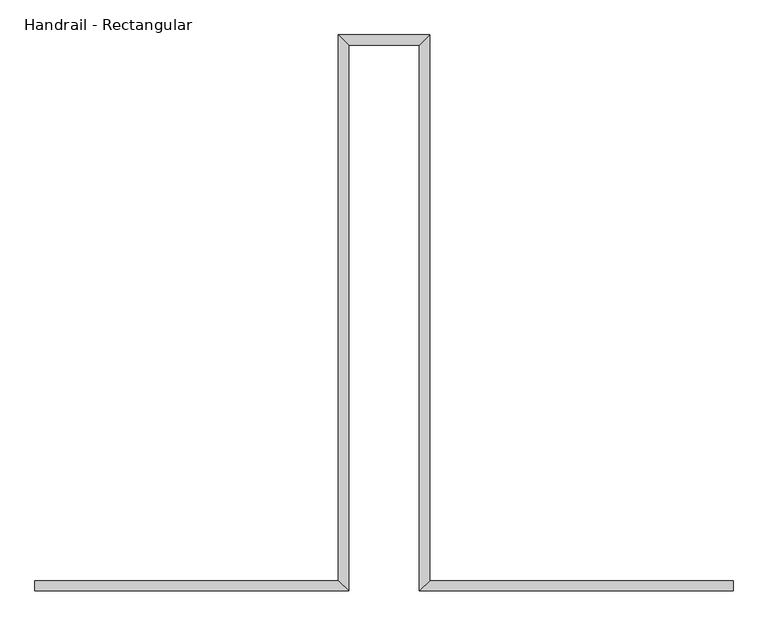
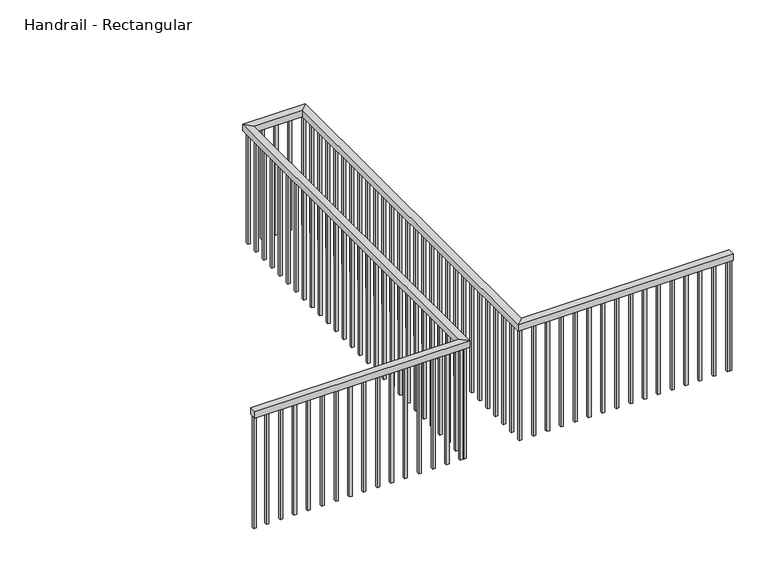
"""IFC4 building model written with IfcOpenShell, lengths in millimetres: railing geometry, Handrail - Rectangular."""

from ifc_helpers import new_model, si_unit, frame, origin, place, context, project, spatial, polyline, outline, extrude, faceted_brep, source, transform, mapped, element, save


def handrail_rectangular_05b30b02(model_context):
    return source(origin(), model_context, "Body", "SolidModel", [
        faceted_brep([(-7998.2149687, 6493.9758812, 10058.4), (-7998.2149687, 6544.7758812, 10058.4), (-7998.2149687, 6544.7758812, 10007.6), (-7998.2149687, 6493.9758812, 10007.6), (-6423.4149687, 6493.9758812, 10058.4), (-6474.2149687, 6544.7758812, 10058.4), (-6474.2149687, 6544.7758812, 10007.6), (-6423.4149687, 6493.9758812, 10007.6), (-6423.4149687, 9237.1758812, 10058.4), (-6474.2149687, 9287.9758812, 10058.4), (-6474.2149687, 9287.9758812, 10007.6), (-6423.4149687, 9237.1758812, 10007.6), (-6067.8149687, 9237.1758812, 10058.4), (-6017.0149687, 9287.9758812, 10058.4), (-6017.0149687, 9287.9758812, 10007.6), (-6067.8149687, 9237.1758812, 10007.6), (-6067.8149687, 6493.9758812, 10058.4), (-6017.0149687, 6544.7758812, 10058.4), (-6017.0149687, 6544.7758812, 10007.6), (-6067.8149687, 6493.9758812, 10007.6), (-4493.0149687, 6493.9758812, 10058.4), (-4493.0149687, 6493.9758812, 10007.6), (-4493.0149687, 6544.7758812, 10007.6), (-4493.0149687, 6544.7758812, 10058.4)], [[[0, 1, 2, 3]], [[1, 0, 4, 5]], [[2, 1, 5, 6]], [[3, 2, 6, 7]], [[0, 3, 7, 4]], [[5, 4, 8, 9]], [[6, 5, 9, 10]], [[7, 6, 10, 11]], [[4, 7, 11, 8]], [[9, 8, 12, 13]], [[10, 9, 13, 14]], [[11, 10, 14, 15]], [[8, 11, 15, 12]], [[13, 12, 16, 17]], [[14, 13, 17, 18]], [[15, 14, 18, 19]], [[12, 15, 19, 16]], [[20, 21, 22, 23]], [[17, 16, 20, 23]], [[18, 17, 23, 22]], [[19, 18, 22, 21]], [[16, 19, 21, 20]]]),
        extrude(outline(polyline([(-4527.9399687, 6509.8508812), (-4527.9399687, 6528.9008812), (-4508.8899687, 6528.9008812), (-4508.8899687, 6509.8508812), (-4527.9399687, 6509.8508812)])), frame((0.0, 0.0, 9144.0), z_axis=(0.0, 0.0, 1.0), x_axis=(1.0, 0.0, 0.0)), (0.0, 0.0, 1.0), 863.6),
        extrude(outline(polyline([(-4629.5399687, 6509.8508812), (-4629.5399687, 6528.9008812), (-4610.4899687, 6528.9008812), (-4610.4899687, 6509.8508812), (-4629.5399687, 6509.8508812)])), frame((0.0, 0.0, 9144.0), z_axis=(0.0, 0.0, 1.0), x_axis=(1.0, 0.0, 0.0)), (0.0, 0.0, 1.0), 863.6),
        extrude(outline(polyline([(-4731.1399687, 6509.8508812), (-4731.1399687, 6528.9008812), (-4712.0899687, 6528.9008812), (-4712.0899687, 6509.8508812), (-4731.1399687, 6509.8508812)])), frame((0.0, 0.0, 9144.0), z_axis=(0.0, 0.0, 1.0), x_axis=(1.0, 0.0, 0.0)), (0.0, 0.0, 1.0), 863.6),
        extrude(outline(polyline([(-4832.7399687, 6509.8508812), (-4832.7399687, 6528.9008812), (-4813.6899687, 6528.9008812), (-4813.6899687, 6509.8508812), (-4832.7399687, 6509.8508812)])), frame((0.0, 0.0, 9144.0), z_axis=(0.0, 0.0, 1.0), x_axis=(1.0, 0.0, 0.0)), (0.0, 0.0, 1.0), 863.6),
        extrude(outline(polyline([(-4934.3399687, 6509.8508812), (-4934.3399687, 6528.9008812), (-4915.2899687, 6528.9008812), (-4915.2899687, 6509.8508812), (-4934.3399687, 6509.8508812)])), frame((0.0, 0.0, 9144.0), z_axis=(0.0, 0.0, 1.0), x_axis=(1.0, 0.0, 0.0)), (0.0, 0.0, 1.0), 863.6),
        extrude(outline(polyline([(-5035.9399687, 6509.8508812), (-5035.9399687, 6528.9008812), (-5016.8899687, 6528.9008812), (-5016.8899687, 6509.8508812), (-5035.9399687, 6509.8508812)])), frame((0.0, 0.0, 9144.0), z_axis=(0.0, 0.0, 1.0), x_axis=(1.0, 0.0, 0.0)), (0.0, 0.0, 1.0), 863.6),
        extrude(outline(polyline([(-5137.5399687, 6509.8508812), (-5137.5399687, 6528.9008812), (-5118.4899687, 6528.9008812), (-5118.4899687, 6509.8508812), (-5137.5399687, 6509.8508812)])), frame((0.0, 0.0, 9144.0), z_axis=(0.0, 0.0, 1.0), x_axis=(1.0, 0.0, 0.0)), (0.0, 0.0, 1.0), 863.6),
        extrude(outline(polyline([(-5239.1399687, 6509.8508812), (-5239.1399687, 6528.9008812), (-5220.0899687, 6528.9008812), (-5220.0899687, 6509.8508812), (-5239.1399687, 6509.8508812)])), frame((0.0, 0.0, 9144.0), z_axis=(0.0, 0.0, 1.0), x_axis=(1.0, 0.0, 0.0)), (0.0, 0.0, 1.0), 863.6),
        extrude(outline(polyline([(-5340.7399687, 6509.8508812), (-5340.7399687, 6528.9008812), (-5321.6899687, 6528.9008812), (-5321.6899687, 6509.8508812), (-5340.7399687, 6509.8508812)])), frame((0.0, 0.0, 9144.0), z_axis=(0.0, 0.0, 1.0), x_axis=(1.0, 0.0, 0.0)), (0.0, 0.0, 1.0), 863.6),
        extrude(outline(polyline([(-5442.3399687, 6509.8508812), (-5442.3399687, 6528.9008812), (-5423.2899687, 6528.9008812), (-5423.2899687, 6509.8508812), (-5442.3399687, 6509.8508812)])), frame((0.0, 0.0, 9144.0), z_axis=(0.0, 0.0, 1.0), x_axis=(1.0, 0.0, 0.0)), (0.0, 0.0, 1.0), 863.6),
        extrude(outline(polyline([(-5543.9399687, 6509.8508812), (-5543.9399687, 6528.9008812), (-5524.8899687, 6528.9008812), (-5524.8899687, 6509.8508812), (-5543.9399687, 6509.8508812)])), frame((0.0, 0.0, 9144.0), z_axis=(0.0, 0.0, 1.0), x_axis=(1.0, 0.0, 0.0)), (0.0, 0.0, 1.0), 863.6),
        extrude(outline(polyline([(-5645.5399687, 6509.8508812), (-5645.5399687, 6528.9008812), (-5626.4899687, 6528.9008812), (-5626.4899687, 6509.8508812), (-5645.5399687, 6509.8508812)])), frame((0.0, 0.0, 9144.0), z_axis=(0.0, 0.0, 1.0), x_axis=(1.0, 0.0, 0.0)), (0.0, 0.0, 1.0), 863.6),
        extrude(outline(polyline([(-5747.1399687, 6509.8508812), (-5747.1399687, 6528.9008812), (-5728.0899687, 6528.9008812), (-5728.0899687, 6509.8508812), (-5747.1399687, 6509.8508812)])), frame((0.0, 0.0, 9144.0), z_axis=(0.0, 0.0, 1.0), x_axis=(1.0, 0.0, 0.0)), (0.0, 0.0, 1.0), 863.6),
        extrude(outline(polyline([(-5848.7399687, 6509.8508812), (-5848.7399687, 6528.9008812), (-5829.6899687, 6528.9008812), (-5829.6899687, 6509.8508812), (-5848.7399687, 6509.8508812)])), frame((0.0, 0.0, 9144.0), z_axis=(0.0, 0.0, 1.0), x_axis=(1.0, 0.0, 0.0)), (0.0, 0.0, 1.0), 863.6),
        extrude(outline(polyline([(-5950.3399687, 6509.8508812), (-5950.3399687, 6528.9008812), (-5931.2899687, 6528.9008812), (-5931.2899687, 6509.8508812), (-5950.3399687, 6509.8508812)])), frame((0.0, 0.0, 9144.0), z_axis=(0.0, 0.0, 1.0), x_axis=(1.0, 0.0, 0.0)), (0.0, 0.0, 1.0), 863.6),
        extrude(outline(polyline([(-6051.9399687, 6630.5008812), (-6032.8899687, 6630.5008812), (-6032.8899687, 6611.4508812), (-6051.9399687, 6611.4508812), (-6051.9399687, 6630.5008812)])), frame((0.0, 0.0, 9144.0), z_axis=(0.0, 0.0, 1.0), x_axis=(1.0, 0.0, 0.0)), (0.0, 0.0, 1.0), 863.6),
        extrude(outline(polyline([(-6051.9399687, 6732.1008812), (-6032.8899687, 6732.1008812), (-6032.8899687, 6713.0508812), (-6051.9399687, 6713.0508812), (-6051.9399687, 6732.1008812)])), frame((0.0, 0.0, 9144.0), z_axis=(0.0, 0.0, 1.0), x_axis=(1.0, 0.0, 0.0)), (0.0, 0.0, 1.0), 863.6),
        extrude(outline(polyline([(-6051.9399687, 6833.7008812), (-6032.8899687, 6833.7008812), (-6032.8899687, 6814.6508812), (-6051.9399687, 6814.6508812), (-6051.9399687, 6833.7008812)])), frame((0.0, 0.0, 9144.0), z_axis=(0.0, 0.0, 1.0), x_axis=(1.0, 0.0, 0.0)), (0.0, 0.0, 1.0), 863.6),
        extrude(outline(polyline([(-6051.9399687, 6935.3008812), (-6032.8899687, 6935.3008812), (-6032.8899687, 6916.2508812), (-6051.9399687, 6916.2508812), (-6051.9399687, 6935.3008812)])), frame((0.0, 0.0, 9144.0), z_axis=(0.0, 0.0, 1.0), x_axis=(1.0, 0.0, 0.0)), (0.0, 0.0, 1.0), 863.6),
        extrude(outline(polyline([(-6051.9399687, 7036.9008812), (-6032.8899687, 7036.9008812), (-6032.8899687, 7017.8508812), (-6051.9399687, 7017.8508812), (-6051.9399687, 7036.9008812)])), frame((0.0, 0.0, 9144.0), z_axis=(0.0, 0.0, 1.0), x_axis=(1.0, 0.0, 0.0)), (0.0, 0.0, 1.0), 863.6),
        extrude(outline(polyline([(-6051.9399687, 7138.5008812), (-6032.8899687, 7138.5008812), (-6032.8899687, 7119.4508812), (-6051.9399687, 7119.4508812), (-6051.9399687, 7138.5008812)])), frame((0.0, 0.0, 9144.0), z_axis=(0.0, 0.0, 1.0), x_axis=(1.0, 0.0, 0.0)), (0.0, 0.0, 1.0), 863.6),
        extrude(outline(polyline([(-6051.9399687, 7240.1008812), (-6032.8899687, 7240.1008812), (-6032.8899687, 7221.0508812), (-6051.9399687, 7221.0508812), (-6051.9399687, 7240.1008812)])), frame((0.0, 0.0, 9144.0), z_axis=(0.0, 0.0, 1.0), x_axis=(1.0, 0.0, 0.0)), (0.0, 0.0, 1.0), 863.6),
        extrude(outline(polyline([(-6051.9399687, 7341.7008812), (-6032.8899687, 7341.7008812), (-6032.8899687, 7322.6508812), (-6051.9399687, 7322.6508812), (-6051.9399687, 7341.7008812)])), frame((0.0, 0.0, 9144.0), z_axis=(0.0, 0.0, 1.0), x_axis=(1.0, 0.0, 0.0)), (0.0, 0.0, 1.0), 863.6),
        extrude(outline(polyline([(-6051.9399687, 7443.3008812), (-6032.8899687, 7443.3008812), (-6032.8899687, 7424.2508812), (-6051.9399687, 7424.2508812), (-6051.9399687, 7443.3008812)])), frame((0.0, 0.0, 9144.0), z_axis=(0.0, 0.0, 1.0), x_axis=(1.0, 0.0, 0.0)), (0.0, 0.0, 1.0), 863.6),
        extrude(outline(polyline([(-6051.9399687, 7544.9008812), (-6032.8899687, 7544.9008812), (-6032.8899687, 7525.8508812), (-6051.9399687, 7525.8508812), (-6051.9399687, 7544.9008812)])), frame((0.0, 0.0, 9144.0), z_axis=(0.0, 0.0, 1.0), x_axis=(1.0, 0.0, 0.0)), (0.0, 0.0, 1.0), 863.6),
        extrude(outline(polyline([(-6051.9399687, 7646.5008812), (-6032.8899687, 7646.5008812), (-6032.8899687, 7627.4508812), (-6051.9399687, 7627.4508812), (-6051.9399687, 7646.5008812)])), frame((0.0, 0.0, 9144.0), z_axis=(0.0, 0.0, 1.0), x_axis=(1.0, 0.0, 0.0)), (0.0, 0.0, 1.0), 863.6),
        extrude(outline(polyline([(-6051.9399687, 7748.1008812), (-6032.8899687, 7748.1008812), (-6032.8899687, 7729.0508812), (-6051.9399687, 7729.0508812), (-6051.9399687, 7748.1008812)])), frame((0.0, 0.0, 9144.0), z_axis=(0.0, 0.0, 1.0), x_axis=(1.0, 0.0, 0.0)), (0.0, 0.0, 1.0), 863.6),
        extrude(outline(polyline([(-6051.9399687, 7849.7008812), (-6032.8899687, 7849.7008812), (-6032.8899687, 7830.6508812), (-6051.9399687, 7830.6508812), (-6051.9399687, 7849.7008812)])), frame((0.0, 0.0, 9144.0), z_axis=(0.0, 0.0, 1.0), x_axis=(1.0, 0.0, 0.0)), (0.0, 0.0, 1.0), 863.6),
        extrude(outline(polyline([(-6051.9399687, 7951.3008812), (-6032.8899687, 7951.3008812), (-6032.8899687, 7932.2508812), (-6051.9399687, 7932.2508812), (-6051.9399687, 7951.3008812)])), frame((0.0, 0.0, 9144.0), z_axis=(0.0, 0.0, 1.0), x_axis=(1.0, 0.0, 0.0)), (0.0, 0.0, 1.0), 863.6),
        extrude(outline(polyline([(-6051.9399687, 8052.9008812), (-6032.8899687, 8052.9008812), (-6032.8899687, 8033.8508812), (-6051.9399687, 8033.8508812), (-6051.9399687, 8052.9008812)])), frame((0.0, 0.0, 9144.0), z_axis=(0.0, 0.0, 1.0), x_axis=(1.0, 0.0, 0.0)), (0.0, 0.0, 1.0), 863.6),
        extrude(outline(polyline([(-6051.9399687, 8154.5008812), (-6032.8899687, 8154.5008812), (-6032.8899687, 8135.4508812), (-6051.9399687, 8135.4508812), (-6051.9399687, 8154.5008812)])), frame((0.0, 0.0, 9144.0), z_axis=(0.0, 0.0, 1.0), x_axis=(1.0, 0.0, 0.0)), (0.0, 0.0, 1.0), 863.6),
        extrude(outline(polyline([(-6051.9399687, 8256.1008812), (-6032.8899687, 8256.1008812), (-6032.8899687, 8237.0508812), (-6051.9399687, 8237.0508812), (-6051.9399687, 8256.1008812)])), frame((0.0, 0.0, 9144.0), z_axis=(0.0, 0.0, 1.0), x_axis=(1.0, 0.0, 0.0)), (0.0, 0.0, 1.0), 863.6),
        extrude(outline(polyline([(-6051.9399687, 8357.7008812), (-6032.8899687, 8357.7008812), (-6032.8899687, 8338.6508812), (-6051.9399687, 8338.6508812), (-6051.9399687, 8357.7008812)])), frame((0.0, 0.0, 9144.0), z_axis=(0.0, 0.0, 1.0), x_axis=(1.0, 0.0, 0.0)), (0.0, 0.0, 1.0), 863.6),
        extrude(outline(polyline([(-6051.9399687, 8459.3008812), (-6032.8899687, 8459.3008812), (-6032.8899687, 8440.2508812), (-6051.9399687, 8440.2508812), (-6051.9399687, 8459.3008812)])), frame((0.0, 0.0, 9144.0), z_axis=(0.0, 0.0, 1.0), x_axis=(1.0, 0.0, 0.0)), (0.0, 0.0, 1.0), 863.6),
        extrude(outline(polyline([(-6051.9399687, 8560.9008812), (-6032.8899687, 8560.9008812), (-6032.8899687, 8541.8508812), (-6051.9399687, 8541.8508812), (-6051.9399687, 8560.9008812)])), frame((0.0, 0.0, 9144.0), z_axis=(0.0, 0.0, 1.0), x_axis=(1.0, 0.0, 0.0)), (0.0, 0.0, 1.0), 863.6),
        extrude(outline(polyline([(-6051.9399687, 8662.5008812), (-6032.8899687, 8662.5008812), (-6032.8899687, 8643.4508812), (-6051.9399687, 8643.4508812), (-6051.9399687, 8662.5008812)])), frame((0.0, 0.0, 9144.0), z_axis=(0.0, 0.0, 1.0), x_axis=(1.0, 0.0, 0.0)), (0.0, 0.0, 1.0), 863.6),
        extrude(outline(polyline([(-6051.9399687, 8764.1008812), (-6032.8899687, 8764.1008812), (-6032.8899687, 8745.0508812), (-6051.9399687, 8745.0508812), (-6051.9399687, 8764.1008812)])), frame((0.0, 0.0, 9144.0), z_axis=(0.0, 0.0, 1.0), x_axis=(1.0, 0.0, 0.0)), (0.0, 0.0, 1.0), 863.6),
        extrude(outline(polyline([(-6051.9399687, 8865.7008812), (-6032.8899687, 8865.7008812), (-6032.8899687, 8846.6508812), (-6051.9399687, 8846.6508812), (-6051.9399687, 8865.7008812)])), frame((0.0, 0.0, 9144.0), z_axis=(0.0, 0.0, 1.0), x_axis=(1.0, 0.0, 0.0)), (0.0, 0.0, 1.0), 863.6),
        extrude(outline(polyline([(-6051.9399687, 8967.3008812), (-6032.8899687, 8967.3008812), (-6032.8899687, 8948.2508812), (-6051.9399687, 8948.2508812), (-6051.9399687, 8967.3008812)])), frame((0.0, 0.0, 9144.0), z_axis=(0.0, 0.0, 1.0), x_axis=(1.0, 0.0, 0.0)), (0.0, 0.0, 1.0), 863.6),
        extrude(outline(polyline([(-6051.9399687, 9068.9008812), (-6032.8899687, 9068.9008812), (-6032.8899687, 9049.8508812), (-6051.9399687, 9049.8508812), (-6051.9399687, 9068.9008812)])), frame((0.0, 0.0, 9144.0), z_axis=(0.0, 0.0, 1.0), x_axis=(1.0, 0.0, 0.0)), (0.0, 0.0, 1.0), 863.6),
        extrude(outline(polyline([(-6051.9399687, 9170.5008812), (-6032.8899687, 9170.5008812), (-6032.8899687, 9151.4508812), (-6051.9399687, 9151.4508812), (-6051.9399687, 9170.5008812)])), frame((0.0, 0.0, 9144.0), z_axis=(0.0, 0.0, 1.0), x_axis=(1.0, 0.0, 0.0)), (0.0, 0.0, 1.0), 863.6),
        extrude(outline(polyline([(-6153.5399687, 9253.0508812), (-6153.5399687, 9272.1008812), (-6134.4899687, 9272.1008812), (-6134.4899687, 9253.0508812), (-6153.5399687, 9253.0508812)])), frame((0.0, 0.0, 9144.0), z_axis=(0.0, 0.0, 1.0), x_axis=(1.0, 0.0, 0.0)), (0.0, 0.0, 1.0), 863.6),
        extrude(outline(polyline([(-6255.1399687, 9253.0508812), (-6255.1399687, 9272.1008812), (-6236.0899687, 9272.1008812), (-6236.0899687, 9253.0508812), (-6255.1399687, 9253.0508812)])), frame((0.0, 0.0, 9144.0), z_axis=(0.0, 0.0, 1.0), x_axis=(1.0, 0.0, 0.0)), (0.0, 0.0, 1.0), 863.6),
        extrude(outline(polyline([(-6356.7399687, 9253.0508812), (-6356.7399687, 9272.1008812), (-6337.6899687, 9272.1008812), (-6337.6899687, 9253.0508812), (-6356.7399687, 9253.0508812)])), frame((0.0, 0.0, 9144.0), z_axis=(0.0, 0.0, 1.0), x_axis=(1.0, 0.0, 0.0)), (0.0, 0.0, 1.0), 863.6),
        extrude(outline(polyline([(-6439.2899687, 9151.4508812), (-6458.3399687, 9151.4508812), (-6458.3399687, 9170.5008812), (-6439.2899687, 9170.5008812), (-6439.2899687, 9151.4508812)])), frame((0.0, 0.0, 9144.0), z_axis=(0.0, 0.0, 1.0), x_axis=(1.0, 0.0, 0.0)), (0.0, 0.0, 1.0), 863.6),
        extrude(outline(polyline([(-6439.2899687, 9049.8508812), (-6458.3399687, 9049.8508812), (-6458.3399687, 9068.9008812), (-6439.2899687, 9068.9008812), (-6439.2899687, 9049.8508812)])), frame((0.0, 0.0, 9144.0), z_axis=(0.0, 0.0, 1.0), x_axis=(1.0, 0.0, 0.0)), (0.0, 0.0, 1.0), 863.6),
        extrude(outline(polyline([(-6439.2899687, 8948.2508812), (-6458.3399687, 8948.2508812), (-6458.3399687, 8967.3008812), (-6439.2899687, 8967.3008812), (-6439.2899687, 8948.2508812)])), frame((0.0, 0.0, 9144.0), z_axis=(0.0, 0.0, 1.0), x_axis=(1.0, 0.0, 0.0)), (0.0, 0.0, 1.0), 863.6),
        extrude(outline(polyline([(-6439.2899687, 8846.6508812), (-6458.3399687, 8846.6508812), (-6458.3399687, 8865.7008812), (-6439.2899687, 8865.7008812), (-6439.2899687, 8846.6508812)])), frame((0.0, 0.0, 9144.0), z_axis=(0.0, 0.0, 1.0), x_axis=(1.0, 0.0, 0.0)), (0.0, 0.0, 1.0), 863.6),
        extrude(outline(polyline([(-6439.2899687, 8745.0508812), (-6458.3399687, 8745.0508812), (-6458.3399687, 8764.1008812), (-6439.2899687, 8764.1008812), (-6439.2899687, 8745.0508812)])), frame((0.0, 0.0, 9144.0), z_axis=(0.0, 0.0, 1.0), x_axis=(1.0, 0.0, 0.0)), (0.0, 0.0, 1.0), 863.6),
        extrude(outline(polyline([(-6439.2899687, 8643.4508812), (-6458.3399687, 8643.4508812), (-6458.3399687, 8662.5008812), (-6439.2899687, 8662.5008812), (-6439.2899687, 8643.4508812)])), frame((0.0, 0.0, 9144.0), z_axis=(0.0, 0.0, 1.0), x_axis=(1.0, 0.0, 0.0)), (0.0, 0.0, 1.0), 863.6),
        extrude(outline(polyline([(-6439.2899687, 8541.8508812), (-6458.3399687, 8541.8508812), (-6458.3399687, 8560.9008812), (-6439.2899687, 8560.9008812), (-6439.2899687, 8541.8508812)])), frame((0.0, 0.0, 9144.0), z_axis=(0.0, 0.0, 1.0), x_axis=(1.0, 0.0, 0.0)), (0.0, 0.0, 1.0), 863.6),
        extrude(outline(polyline([(-6439.2899687, 8440.2508812), (-6458.3399687, 8440.2508812), (-6458.3399687, 8459.3008812), (-6439.2899687, 8459.3008812), (-6439.2899687, 8440.2508812)])), frame((0.0, 0.0, 9144.0), z_axis=(0.0, 0.0, 1.0), x_axis=(1.0, 0.0, 0.0)), (0.0, 0.0, 1.0), 863.6),
        extrude(outline(polyline([(-6439.2899687, 8338.6508812), (-6458.3399687, 8338.6508812), (-6458.3399687, 8357.7008812), (-6439.2899687, 8357.7008812), (-6439.2899687, 8338.6508812)])), frame((0.0, 0.0, 9144.0), z_axis=(0.0, 0.0, 1.0), x_axis=(1.0, 0.0, 0.0)), (0.0, 0.0, 1.0), 863.6),
        extrude(outline(polyline([(-6439.2899687, 8237.0508812), (-6458.3399687, 8237.0508812), (-6458.3399687, 8256.1008812), (-6439.2899687, 8256.1008812), (-6439.2899687, 8237.0508812)])), frame((0.0, 0.0, 9144.0), z_axis=(0.0, 0.0, 1.0), x_axis=(1.0, 0.0, 0.0)), (0.0, 0.0, 1.0), 863.6),
        extrude(outline(polyline([(-6439.2899687, 8135.4508812), (-6458.3399687, 8135.4508812), (-6458.3399687, 8154.5008812), (-6439.2899687, 8154.5008812), (-6439.2899687, 8135.4508812)])), frame((0.0, 0.0, 9144.0), z_axis=(0.0, 0.0, 1.0), x_axis=(1.0, 0.0, 0.0)), (0.0, 0.0, 1.0), 863.6),
        extrude(outline(polyline([(-6439.2899687, 8033.8508812), (-6458.3399687, 8033.8508812), (-6458.3399687, 8052.9008812), (-6439.2899687, 8052.9008812), (-6439.2899687, 8033.8508812)])), frame((0.0, 0.0, 9144.0), z_axis=(0.0, 0.0, 1.0), x_axis=(1.0, 0.0, 0.0)), (0.0, 0.0, 1.0), 863.6),
        extrude(outline(polyline([(-6439.2899687, 7932.2508812), (-6458.3399687, 7932.2508812), (-6458.3399687, 7951.3008812), (-6439.2899687, 7951.3008812), (-6439.2899687, 7932.2508812)])), frame((0.0, 0.0, 9144.0), z_axis=(0.0, 0.0, 1.0), x_axis=(1.0, 0.0, 0.0)), (0.0, 0.0, 1.0), 863.6),
        extrude(outline(polyline([(-6439.2899687, 7830.6508812), (-6458.3399687, 7830.6508812), (-6458.3399687, 7849.7008812), (-6439.2899687, 7849.7008812), (-6439.2899687, 7830.6508812)])), frame((0.0, 0.0, 9144.0), z_axis=(0.0, 0.0, 1.0), x_axis=(1.0, 0.0, 0.0)), (0.0, 0.0, 1.0), 863.6),
        extrude(outline(polyline([(-6439.2899687, 7729.0508812), (-6458.3399687, 7729.0508812), (-6458.3399687, 7748.1008812), (-6439.2899687, 7748.1008812), (-6439.2899687, 7729.0508812)])), frame((0.0, 0.0, 9144.0), z_axis=(0.0, 0.0, 1.0), x_axis=(1.0, 0.0, 0.0)), (0.0, 0.0, 1.0), 863.6),
        extrude(outline(polyline([(-6439.2899687, 7627.4508812), (-6458.3399687, 7627.4508812), (-6458.3399687, 7646.5008812), (-6439.2899687, 7646.5008812), (-6439.2899687, 7627.4508812)])), frame((0.0, 0.0, 9144.0), z_axis=(0.0, 0.0, 1.0), x_axis=(1.0, 0.0, 0.0)), (0.0, 0.0, 1.0), 863.6),
        extrude(outline(polyline([(-6439.2899687, 7525.8508812), (-6458.3399687, 7525.8508812), (-6458.3399687, 7544.9008812), (-6439.2899687, 7544.9008812), (-6439.2899687, 7525.8508812)])), frame((0.0, 0.0, 9144.0), z_axis=(0.0, 0.0, 1.0), x_axis=(1.0, 0.0, 0.0)), (0.0, 0.0, 1.0), 863.6),
        extrude(outline(polyline([(-6439.2899687, 7424.2508812), (-6458.3399687, 7424.2508812), (-6458.3399687, 7443.3008812), (-6439.2899687, 7443.3008812), (-6439.2899687, 7424.2508812)])), frame((0.0, 0.0, 9144.0), z_axis=(0.0, 0.0, 1.0), x_axis=(1.0, 0.0, 0.0)), (0.0, 0.0, 1.0), 863.6),
        extrude(outline(polyline([(-6439.2899687, 7322.6508812), (-6458.3399687, 7322.6508812), (-6458.3399687, 7341.7008812), (-6439.2899687, 7341.7008812), (-6439.2899687, 7322.6508812)])), frame((0.0, 0.0, 9144.0), z_axis=(0.0, 0.0, 1.0), x_axis=(1.0, 0.0, 0.0)), (0.0, 0.0, 1.0), 863.6),
        extrude(outline(polyline([(-6439.2899687, 7221.0508812), (-6458.3399687, 7221.0508812), (-6458.3399687, 7240.1008812), (-6439.2899687, 7240.1008812), (-6439.2899687, 7221.0508812)])), frame((0.0, 0.0, 9144.0), z_axis=(0.0, 0.0, 1.0), x_axis=(1.0, 0.0, 0.0)), (0.0, 0.0, 1.0), 863.6),
        extrude(outline(polyline([(-6439.2899687, 7119.4508812), (-6458.3399687, 7119.4508812), (-6458.3399687, 7138.5008812), (-6439.2899687, 7138.5008812), (-6439.2899687, 7119.4508812)])), frame((0.0, 0.0, 9144.0), z_axis=(0.0, 0.0, 1.0), x_axis=(1.0, 0.0, 0.0)), (0.0, 0.0, 1.0), 863.6),
        extrude(outline(polyline([(-6439.2899687, 7017.8508812), (-6458.3399687, 7017.8508812), (-6458.3399687, 7036.9008812), (-6439.2899687, 7036.9008812), (-6439.2899687, 7017.8508812)])), frame((0.0, 0.0, 9144.0), z_axis=(0.0, 0.0, 1.0), x_axis=(1.0, 0.0, 0.0)), (0.0, 0.0, 1.0), 863.6),
        extrude(outline(polyline([(-6439.2899687, 6916.2508812), (-6458.3399687, 6916.2508812), (-6458.3399687, 6935.3008812), (-6439.2899687, 6935.3008812), (-6439.2899687, 6916.2508812)])), frame((0.0, 0.0, 9144.0), z_axis=(0.0, 0.0, 1.0), x_axis=(1.0, 0.0, 0.0)), (0.0, 0.0, 1.0), 863.6),
        extrude(outline(polyline([(-6439.2899687, 6814.6508812), (-6458.3399687, 6814.6508812), (-6458.3399687, 6833.7008812), (-6439.2899687, 6833.7008812), (-6439.2899687, 6814.6508812)])), frame((0.0, 0.0, 9144.0), z_axis=(0.0, 0.0, 1.0), x_axis=(1.0, 0.0, 0.0)), (0.0, 0.0, 1.0), 863.6),
        extrude(outline(polyline([(-6439.2899687, 6713.0508812), (-6458.3399687, 6713.0508812), (-6458.3399687, 6732.1008812), (-6439.2899687, 6732.1008812), (-6439.2899687, 6713.0508812)])), frame((0.0, 0.0, 9144.0), z_axis=(0.0, 0.0, 1.0), x_axis=(1.0, 0.0, 0.0)), (0.0, 0.0, 1.0), 863.6),
        extrude(outline(polyline([(-6439.2899687, 6611.4508812), (-6458.3399687, 6611.4508812), (-6458.3399687, 6630.5008812), (-6439.2899687, 6630.5008812), (-6439.2899687, 6611.4508812)])), frame((0.0, 0.0, 9144.0), z_axis=(0.0, 0.0, 1.0), x_axis=(1.0, 0.0, 0.0)), (0.0, 0.0, 1.0), 863.6),
        extrude(outline(polyline([(-6483.7399687, 6509.8508812), (-6483.7399687, 6528.9008812), (-6464.6899687, 6528.9008812), (-6464.6899687, 6509.8508812), (-6483.7399687, 6509.8508812)])), frame((0.0, 0.0, 9144.0), z_axis=(0.0, 0.0, 1.0), x_axis=(1.0, 0.0, 0.0)), (0.0, 0.0, 1.0), 863.6),
        extrude(outline(polyline([(-6585.3399687, 6509.8508812), (-6585.3399687, 6528.9008812), (-6566.2899687, 6528.9008812), (-6566.2899687, 6509.8508812), (-6585.3399687, 6509.8508812)])), frame((0.0, 0.0, 9144.0), z_axis=(0.0, 0.0, 1.0), x_axis=(1.0, 0.0, 0.0)), (0.0, 0.0, 1.0), 863.6),
        extrude(outline(polyline([(-6686.9399687, 6509.8508812), (-6686.9399687, 6528.9008812), (-6667.8899687, 6528.9008812), (-6667.8899687, 6509.8508812), (-6686.9399687, 6509.8508812)])), frame((0.0, 0.0, 9144.0), z_axis=(0.0, 0.0, 1.0), x_axis=(1.0, 0.0, 0.0)), (0.0, 0.0, 1.0), 863.6),
        extrude(outline(polyline([(-6788.5399687, 6509.8508812), (-6788.5399687, 6528.9008812), (-6769.4899687, 6528.9008812), (-6769.4899687, 6509.8508812), (-6788.5399687, 6509.8508812)])), frame((0.0, 0.0, 9144.0), z_axis=(0.0, 0.0, 1.0), x_axis=(1.0, 0.0, 0.0)), (0.0, 0.0, 1.0), 863.6),
        extrude(outline(polyline([(-6890.1399687, 6509.8508812), (-6890.1399687, 6528.9008812), (-6871.0899687, 6528.9008812), (-6871.0899687, 6509.8508812), (-6890.1399687, 6509.8508812)])), frame((0.0, 0.0, 9144.0), z_axis=(0.0, 0.0, 1.0), x_axis=(1.0, 0.0, 0.0)), (0.0, 0.0, 1.0), 863.6),
        extrude(outline(polyline([(-6991.7399687, 6509.8508812), (-6991.7399687, 6528.9008812), (-6972.6899687, 6528.9008812), (-6972.6899687, 6509.8508812), (-6991.7399687, 6509.8508812)])), frame((0.0, 0.0, 9144.0), z_axis=(0.0, 0.0, 1.0), x_axis=(1.0, 0.0, 0.0)), (0.0, 0.0, 1.0), 863.6),
        extrude(outline(polyline([(-7093.3399687, 6509.8508812), (-7093.3399687, 6528.9008812), (-7074.2899687, 6528.9008812), (-7074.2899687, 6509.8508812), (-7093.3399687, 6509.8508812)])), frame((0.0, 0.0, 9144.0), z_axis=(0.0, 0.0, 1.0), x_axis=(1.0, 0.0, 0.0)), (0.0, 0.0, 1.0), 863.6),
        extrude(outline(polyline([(-7194.9399687, 6509.8508812), (-7194.9399687, 6528.9008812), (-7175.8899687, 6528.9008812), (-7175.8899687, 6509.8508812), (-7194.9399687, 6509.8508812)])), frame((0.0, 0.0, 9144.0), z_axis=(0.0, 0.0, 1.0), x_axis=(1.0, 0.0, 0.0)), (0.0, 0.0, 1.0), 863.6),
        extrude(outline(polyline([(-7296.5399687, 6509.8508812), (-7296.5399687, 6528.9008812), (-7277.4899687, 6528.9008812), (-7277.4899687, 6509.8508812), (-7296.5399687, 6509.8508812)])), frame((0.0, 0.0, 9144.0), z_axis=(0.0, 0.0, 1.0), x_axis=(1.0, 0.0, 0.0)), (0.0, 0.0, 1.0), 863.6),
        extrude(outline(polyline([(-7398.1399687, 6509.8508812), (-7398.1399687, 6528.9008812), (-7379.0899687, 6528.9008812), (-7379.0899687, 6509.8508812), (-7398.1399687, 6509.8508812)])), frame((0.0, 0.0, 9144.0), z_axis=(0.0, 0.0, 1.0), x_axis=(1.0, 0.0, 0.0)), (0.0, 0.0, 1.0), 863.6),
        extrude(outline(polyline([(-7499.7399687, 6509.8508812), (-7499.7399687, 6528.9008812), (-7480.6899687, 6528.9008812), (-7480.6899687, 6509.8508812), (-7499.7399687, 6509.8508812)])), frame((0.0, 0.0, 9144.0), z_axis=(0.0, 0.0, 1.0), x_axis=(1.0, 0.0, 0.0)), (0.0, 0.0, 1.0), 863.6),
        extrude(outline(polyline([(-7601.3399687, 6509.8508812), (-7601.3399687, 6528.9008812), (-7582.2899687, 6528.9008812), (-7582.2899687, 6509.8508812), (-7601.3399687, 6509.8508812)])), frame((0.0, 0.0, 9144.0), z_axis=(0.0, 0.0, 1.0), x_axis=(1.0, 0.0, 0.0)), (0.0, 0.0, 1.0), 863.6),
        extrude(outline(polyline([(-7702.9399687, 6509.8508812), (-7702.9399687, 6528.9008812), (-7683.8899687, 6528.9008812), (-7683.8899687, 6509.8508812), (-7702.9399687, 6509.8508812)])), frame((0.0, 0.0, 9144.0), z_axis=(0.0, 0.0, 1.0), x_axis=(1.0, 0.0, 0.0)), (0.0, 0.0, 1.0), 863.6),
        extrude(outline(polyline([(-7804.5399687, 6509.8508812), (-7804.5399687, 6528.9008812), (-7785.4899687, 6528.9008812), (-7785.4899687, 6509.8508812), (-7804.5399687, 6509.8508812)])), frame((0.0, 0.0, 9144.0), z_axis=(0.0, 0.0, 1.0), x_axis=(1.0, 0.0, 0.0)), (0.0, 0.0, 1.0), 863.6),
        extrude(outline(polyline([(-7906.1399687, 6509.8508812), (-7906.1399687, 6528.9008812), (-7887.0899687, 6528.9008812), (-7887.0899687, 6509.8508812), (-7906.1399687, 6509.8508812)])), frame((0.0, 0.0, 9144.0), z_axis=(0.0, 0.0, 1.0), x_axis=(1.0, 0.0, 0.0)), (0.0, 0.0, 1.0), 863.6),
        extrude(outline(polyline([(-6051.9399687, 6528.9008812), (-6032.8899687, 6528.9008812), (-6032.8899687, 6509.8508812), (-6051.9399687, 6509.8508812), (-6051.9399687, 6528.9008812)])), frame((0.0, 0.0, 9144.0), z_axis=(0.0, 0.0, 1.0), x_axis=(1.0, 0.0, 0.0)), (0.0, 0.0, 1.0), 863.6),
        extrude(outline(polyline([(-6051.9399687, 9253.0508812), (-6051.9399687, 9272.1008812), (-6032.8899687, 9272.1008812), (-6032.8899687, 9253.0508812), (-6051.9399687, 9253.0508812)])), frame((0.0, 0.0, 9144.0), z_axis=(0.0, 0.0, 1.0), x_axis=(1.0, 0.0, 0.0)), (0.0, 0.0, 1.0), 863.6),
        extrude(outline(polyline([(-6439.2899687, 9253.0508812), (-6458.3399687, 9253.0508812), (-6458.3399687, 9272.1008812), (-6439.2899687, 9272.1008812), (-6439.2899687, 9253.0508812)])), frame((0.0, 0.0, 9144.0), z_axis=(0.0, 0.0, 1.0), x_axis=(1.0, 0.0, 0.0)), (0.0, 0.0, 1.0), 863.6),
        extrude(outline(polyline([(-6458.3399687, 6509.8508812), (-6458.3399687, 6528.9008812), (-6439.2899687, 6528.9008812), (-6439.2899687, 6509.8508812), (-6458.3399687, 6509.8508812)])), frame((0.0, 0.0, 9144.0), z_axis=(0.0, 0.0, 1.0), x_axis=(1.0, 0.0, 0.0)), (0.0, 0.0, 1.0), 863.6),
        extrude(outline(polyline([(-4512.0649687, 6509.8508812), (-4512.0649687, 6528.9008812), (-4493.0149687, 6528.9008812), (-4493.0149687, 6509.8508812), (-4512.0649687, 6509.8508812)])), frame((0.0, 0.0, 9144.0), z_axis=(0.0, 0.0, 1.0), x_axis=(1.0, 0.0, 0.0)), (0.0, 0.0, 1.0), 863.6),
        extrude(outline(polyline([(-7998.2149687, 6509.8508812), (-7998.2149687, 6528.9008812), (-7979.1649687, 6528.9008812), (-7979.1649687, 6509.8508812), (-7998.2149687, 6509.8508812)])), frame((0.0, 0.0, 9144.0), z_axis=(0.0, 0.0, 1.0), x_axis=(1.0, 0.0, 0.0)), (0.0, 0.0, 1.0), 863.6),
    ])


if __name__ == "__main__":
    model = new_model("IFC4")
    model_context = context("Model", 3, world=origin())
    ifc_project = project(units=[si_unit("LENGTHUNIT", "METRE", prefix="MILLI")], contexts=[model_context])
    site = spatial("IfcSite", under=ifc_project)
    building = spatial("IfcBuilding", under=site)
    placement = place(None, origin())
    handrail_rectangular_shape = handrail_rectangular_05b30b02(model_context)
    element("IfcRailing", 1, ObjectType="Handrail - Rectangular", at=placement, inside=building, context=model_context, shape_type="MappedRepresentation", body=[
        mapped(handrail_rectangular_shape, transform((0.0, 0.0, 0.0), x_axis=(1.0, 0.0, 0.0), y_axis=(0.0, 1.0, 0.0), z_axis=(0.0, 0.0, 1.0))),
    ])
    save(model, "model.ifc")
